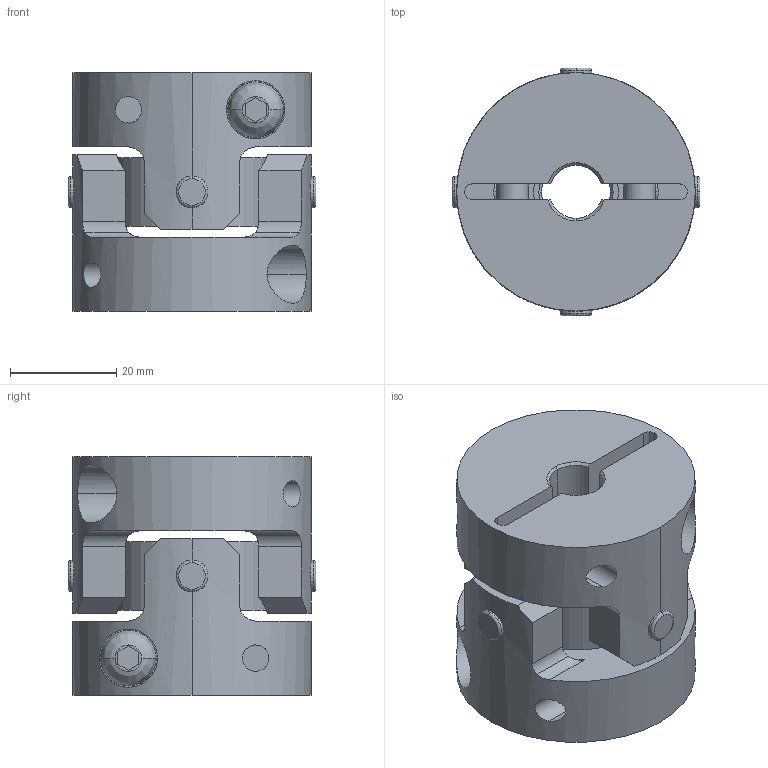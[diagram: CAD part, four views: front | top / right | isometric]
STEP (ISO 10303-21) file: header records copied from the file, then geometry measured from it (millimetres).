
FILE_DESCRIPTION((''),'2;1');
FILE_NAME('UA-45C-10×13.stp','2013-05-22T10:28:12',(''),(''),'AutoCAD STEP 2000i','AutoCAD 2000i',', , ');
FILE_SCHEMA(('CONFIG_CONTROL_DESIGN'));
Length unit declared in the file: millimetre
Products named in the file (6): UA-45C-8×8; 忣兜1; UA-4502-D08-1; BTN-M6; UA-4502-D08; UA45-SEN
Assembly tree (6 placements, depth 3):
  UA-45C-8×8
    忣兜1
    UA-4502-D08-1
      BTN-M6
    UA-4502-D08
      BTN-M6
    UA45-SEN
Bounding box: 46.73 x 46.73 x 45 mm (x, y, z)
Volume: 50439.2 mm3; surface area: 20275.3 mm2
Topology: 1 solids, 1 shells, 206 faces, 554 edges, 364 vertices
Faces by surface type: cylinder 96, plane 78, cone 16, bspline 8, torus 8
Entity records: 8523 total; most frequent: CARTESIAN_POINT 3207, ORIENTED_EDGE 1108, DIRECTION 1064, EDGE_CURVE 554, AXIS2_PLACEMENT_3D 409, VERTEX_POINT 364, VECTOR 246, LINE 246
